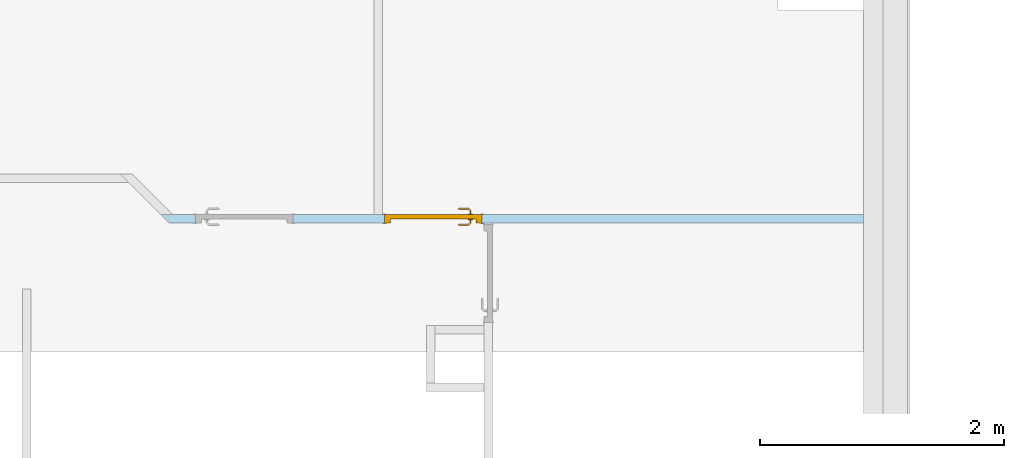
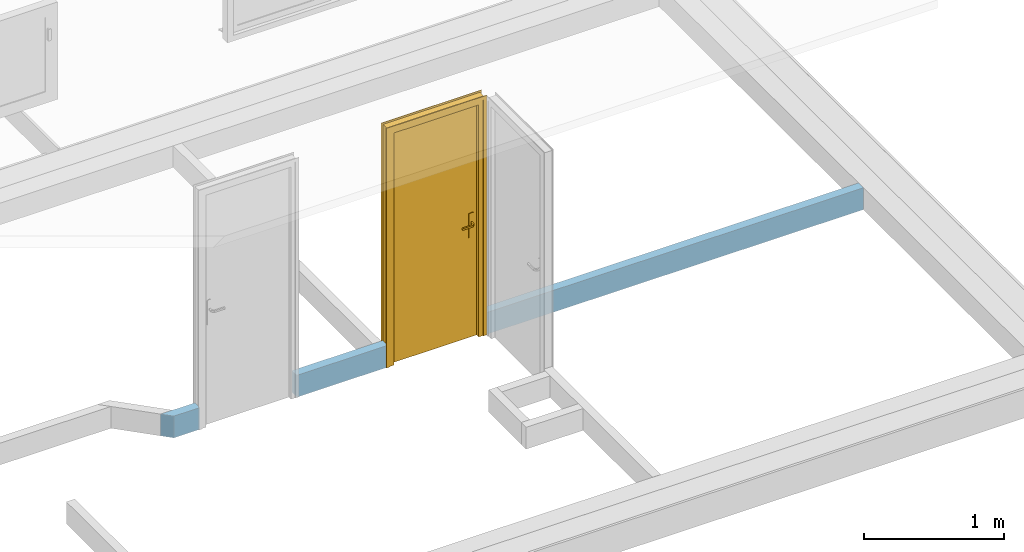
# One storey, part 3 of 5: 1 door, 2 openings, plus 1 element that does not belong to this part.
"""IFC2X3 building model written with IfcOpenShell, lengths in centimetres."""

from ifc_helpers import new_model, entity, si_unit, converted_unit, derived_unit, direction, frame, frame_2d, origin, place, context, subcontext, project, spatial, polyline, rectangle, outline, extrude, clip, halfspace, faceted_brep, source, transform, mapped, material, material_list, layer, layer_set, layer_usage, type_object, type_shapes, element, fill, save


model = new_model("IFC2X3")

# Units and contexts
model_context = context("Model", 3, precision=0.001, world=origin(), true_north=direction((6.12303176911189e-17, 1.0)))
body_context = subcontext(model_context, "Body", "Model", "MODEL_VIEW")
ifc_project = project(units=[si_unit("LENGTHUNIT", "METRE", prefix="CENTI"), si_unit("AREAUNIT", "SQUARE_METRE"), si_unit("VOLUMEUNIT", "CUBIC_METRE"), converted_unit("PLANEANGLEUNIT", "DEGREE", entity("IfcRatioMeasure", 0.0174532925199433), si_unit("PLANEANGLEUNIT", "RADIAN"), dimensions=[0, 0, 0, 0, 0, 0, 0]), si_unit("MASSUNIT", "GRAM", prefix="KILO"), derived_unit("MASSDENSITYUNIT", [(si_unit("MASSUNIT", "GRAM", prefix="KILO"), 1), (si_unit("LENGTHUNIT", "METRE"), -3)]), derived_unit("MOMENTOFINERTIAUNIT", [(si_unit("LENGTHUNIT", "METRE"), 4)]), si_unit("TIMEUNIT", "SECOND"), si_unit("FREQUENCYUNIT", "HERTZ"), si_unit("THERMODYNAMICTEMPERATUREUNIT", "DEGREE_CELSIUS"), derived_unit("THERMALTRANSMITTANCEUNIT", [(si_unit("MASSUNIT", "GRAM", prefix="KILO"), 1), (si_unit("THERMODYNAMICTEMPERATUREUNIT", "KELVIN"), -1), (si_unit("TIMEUNIT", "SECOND"), -3)]), derived_unit("VOLUMETRICFLOWRATEUNIT", [(si_unit("LENGTHUNIT", "METRE"), 3), (si_unit("TIMEUNIT", "SECOND"), -1)]), si_unit("ELECTRICCURRENTUNIT", "AMPERE"), si_unit("ELECTRICVOLTAGEUNIT", "VOLT"), si_unit("POWERUNIT", "WATT"), si_unit("FORCEUNIT", "NEWTON", prefix="KILO"), si_unit("ILLUMINANCEUNIT", "LUX"), si_unit("LUMINOUSFLUXUNIT", "LUMEN"), si_unit("LUMINOUSINTENSITYUNIT", "CANDELA"), derived_unit("USERDEFINED", [(si_unit("MASSUNIT", "GRAM", prefix="KILO"), -1), (si_unit("LENGTHUNIT", "METRE"), -2), (si_unit("TIMEUNIT", "SECOND"), 3), (si_unit("LUMINOUSFLUXUNIT", "LUMEN"), 1)]), derived_unit("LINEARVELOCITYUNIT", [(si_unit("LENGTHUNIT", "METRE"), 1), (si_unit("TIMEUNIT", "SECOND"), -1)]), si_unit("PRESSUREUNIT", "PASCAL"), derived_unit("USERDEFINED", [(si_unit("LENGTHUNIT", "METRE"), -2), (si_unit("MASSUNIT", "GRAM", prefix="KILO"), 1), (si_unit("TIMEUNIT", "SECOND"), -2)]), derived_unit("LINEARFORCEUNIT", [(si_unit("MASSUNIT", "GRAM", prefix="KILO"), 1), (si_unit("LENGTHUNIT", "METRE"), 1), (si_unit("TIMEUNIT", "SECOND"), -2), (si_unit("LENGTHUNIT", "METRE"), -1)]), derived_unit("PLANARFORCEUNIT", [(si_unit("MASSUNIT", "GRAM", prefix="KILO"), 1), (si_unit("LENGTHUNIT", "METRE"), 1), (si_unit("TIMEUNIT", "SECOND"), -2), (si_unit("LENGTHUNIT", "METRE"), -2)])], contexts=[model_context])

# Site, building, storey
site_placement = place(None, origin())
site = spatial("IfcSite", under=ifc_project, at=site_placement, Name="Surface", CompositionType="ELEMENT")
building_placement = place(site_placement, origin())
building = spatial("IfcBuilding", under=site, at=building_placement, CompositionType="ELEMENT")
storey_placement = place(building_placement, frame((0.0, 0.0, 263.0)))
storey = spatial("IfcBuildingStorey", under=building, at=storey_placement, Name="2.63_Etage", CompositionType="ELEMENT", Elevation=263.0)

# Wall, openings, door
ifc_material_1 = material(Name="Mur par défaut")
ifc_layer = layer(ifc_material_1, 7.0)
ifc_layer_set = layer_set([ifc_layer], Name="Mur de base:Cloison 7cm")
ifc_layer_usage = layer_usage(ifc_layer_set, "AXIS2", "POSITIVE", -3.5)
wall_type = type_object("IfcWallType", Name="Mur de base:Cloison 7cm", PredefinedType="STANDARD", material=ifc_layer_set)
wall_placement = place(storey_placement, frame((-918.177260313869, 397.49231712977, 0.0), z_axis=(0.0, 0.0, 1.0), x_axis=(-1.0, 0.0, 0.0)))
wall = element("IfcWallStandardCase", 1, at=wall_placement, inside=storey, type_object=wall_type, material=ifc_layer_usage, Name="Mur de base:Cloison 7cm", ObjectType="Mur de base:Cloison 7cm", context=body_context, shape_type="Clipping", body=[
    clip(extrude(outline(polyline([(0.0, -3.49999999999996), (394.0, -3.49999999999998), (401.0, -3.49999999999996), (566.100505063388, -3.49999999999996), (576.0, -3.49999999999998), (569.0, 3.50000000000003), (0.0, 3.50000000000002), (0.0, -3.49999999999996)])), origin(), (0.0, 0.0, 1.0), 19.0), halfspace(origin(), True)),
])
opening_1_placement = place(wall_placement, frame((547.5, 3.49999999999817, 0.0)))
element("IfcOpeningElement", 2, at=opening_1_placement, cuts=wall, Name="Int. Simple:PP (0.73m x 2.04m):1", ObjectType="Opening", context=body_context, shape_type="SweptSolid", body=[
    extrude(rectangle(XDim=207.5, YDim=79.9999999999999, at=frame_2d((103.75, 40.0), x_axis=(1.0, 0.0))), frame((0.0, 0.0, 0.0), z_axis=(0.0, -1.0, 0.0), x_axis=(0.0, 0.0, 1.0)), (0.0, 0.0, 1.0), 7.0),
])
opening_2_placement = place(wall_placement, frame((392.500000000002, 3.49999999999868, 0.0)))
opening_2 = element("IfcOpeningElement", 3, at=opening_2_placement, cuts=wall, Name="Int. Simple:PP (0.73m x 2.04m):1", ObjectType="Opening", context=body_context, shape_type="SweptSolid", body=[
    extrude(rectangle(XDim=207.5, YDim=79.9999999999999, at=frame_2d((103.75, 40.0), x_axis=(1.0, 0.0))), frame((0.0, 0.0, 0.0), z_axis=(0.0, -1.0, 0.0), x_axis=(0.0, 0.0, 1.0)), (0.0, 0.0, 1.0), 7.0),
])
ifc_material_2 = material(Name="Finition Peinture - Blanc satiné")
ifc_material_3 = material(Name="Bois - Panneau de porte")
ifc_material_4 = material(Name="Bois - Cadre de porte")
ifc_material_list_1 = material_list([ifc_material_2, ifc_material_3, ifc_material_4])
ifc_material_list_2 = material_list([ifc_material_4, ifc_material_2, ifc_material_3])
door_style = type_object("IfcDoorStyle", Name="Int. Simple:PP (0.73m x 2.04m)", ConstructionType="NOTDEFINED", OperationType="NOTDEFINED", ParameterTakesPrecedence=False, Sizeable=False, material=ifc_material_list_2)
shared_shape = source(origin(), body_context, "Body", "Brep", [
    faceted_brep([(10.5352761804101, -0.500000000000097, 86.6003983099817), (11.5, -0.500000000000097, 87.0), (11.4999999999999, -0.500000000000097, 108.0), (10.53527618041, -0.500000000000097, 108.399601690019), (9.49999999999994, -0.500000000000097, 108.535898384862), (8.46472381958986, -0.500000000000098, 108.399601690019), (7.49999999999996, -0.500000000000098, 108.0), (7.50000000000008, -0.500000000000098, 87.0), (8.46472381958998, -0.500000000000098, 86.6003983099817), (9.50000000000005, -0.500000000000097, 86.464101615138), (10.53527618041, 0.0, 108.399601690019), (11.4999999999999, 0.0, 108.0), (11.5, 0.0, 87.0), (10.5352761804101, 0.0, 86.6003983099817), (9.50000000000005, 0.0, 86.464101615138), (8.46472381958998, 0.0, 86.6003983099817), (7.49999999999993, 0.0, 87.0), (7.49999999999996, 0.0, 108.0), (8.46472381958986, 0.0, 108.399601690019), (9.49999999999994, 0.0, 108.535898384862)], [[[0, 1, 2, 3, 4, 5, 6, 7, 8, 9]], [[10, 11, 12, 13, 14, 15, 16, 17, 18, 19]], [[16, 15, 8, 7]], [[8, 15, 14, 9]], [[14, 13, 0, 9]], [[13, 12, 1, 0]], [[2, 1, 12, 11]], [[11, 10, 3, 2]], [[3, 10, 19, 4]], [[19, 18, 5, 4]], [[18, 17, 6, 5]], [[7, 6, 17, 16]]]),
    faceted_brep([(10.5352761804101, 4.0, 86.6003983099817), (11.5, 4.0, 87.0), (11.4999999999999, 4.0, 108.0), (10.53527618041, 4.0, 108.399601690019), (9.4999999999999, 4.0, 108.535898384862), (8.46472381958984, 4.0, 108.399601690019), (7.49999999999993, 4.0, 108.0), (7.50000000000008, 4.0, 87.0), (8.46472381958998, 4.0, 86.6003983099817), (9.50000000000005, 4.0, 86.464101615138), (10.53527618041, 4.4999999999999, 108.399601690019), (11.4999999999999, 4.4999999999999, 108.0), (11.5, 4.4999999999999, 87.0), (10.5352761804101, 4.4999999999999, 86.6003983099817), (9.50000000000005, 4.4999999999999, 86.464101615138), (8.46472381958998, 4.4999999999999, 86.6003983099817), (7.49999999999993, 4.4999999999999, 87.0), (7.49999999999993, 4.4999999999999, 108.0), (8.46472381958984, 4.4999999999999, 108.399601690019), (9.4999999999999, 4.4999999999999, 108.535898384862)], [[[0, 1, 2, 3, 4, 5, 6, 7, 8, 9]], [[10, 11, 12, 13, 14, 15, 16, 17, 18, 19]], [[11, 10, 3, 2]], [[3, 10, 19, 4]], [[19, 18, 5, 4]], [[18, 17, 6, 5]], [[7, 6, 17, 16]], [[16, 15, 8, 7]], [[8, 15, 14, 9]], [[14, 13, 0, 9]], [[13, 12, 1, 0]], [[2, 1, 12, 11]]]),
    faceted_brep([(9.29747013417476, -0.500000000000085, 100.778044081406), (9.70252986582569, -0.500000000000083, 100.778044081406), (10.1000000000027, -0.500000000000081, 100.699999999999), (10.1000000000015, -0.500000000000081, 99.3000000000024), (9.70252986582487, -0.500000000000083, 99.2219559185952), (9.29747013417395, -0.500000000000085, 99.221955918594), (8.89999999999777, -0.500000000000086, 99.2999999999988), (8.89999999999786, -0.500000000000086, 100.7), (8.89999999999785, -3.26509507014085, 100.7), (9.29747013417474, -3.10045754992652, 100.778044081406), (10.9023585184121, -4.7053459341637, 100.778044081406), (11.0701397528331, -4.30028620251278, 100.778044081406), (9.70252986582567, -2.93267631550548, 100.778044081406), (10.1000000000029, -2.76803879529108, 100.7), (10.1000000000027, -2.76803879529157, 99.3000000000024), (9.70252986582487, -2.93267631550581, 99.2219559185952), (11.0701397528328, -4.30028620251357, 99.2219559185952), (10.9023585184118, -4.70534593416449, 99.221955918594), (9.29747013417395, -3.10045754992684, 99.221955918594), (8.89999999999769, -3.26509507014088, 99.2999999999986), (10.7377209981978, -5.1028160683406, 100.7), (11.2347772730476, -3.9028160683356, 100.7), (11.2347772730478, -3.90281606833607, 99.3000000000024), (10.7377209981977, -5.10281606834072, 99.2999999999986), (19.5018640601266, -5.1028160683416, 99.2999999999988), (19.5018640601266, -4.70534593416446, 99.221955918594), (19.5018640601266, -4.30028620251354, 99.2219559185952), (19.5018640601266, -3.90281606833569, 99.3000000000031), (19.5018640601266, -3.90281606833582, 100.7), (19.5018640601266, -4.30028620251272, 100.778044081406), (19.5018640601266, -4.70534593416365, 100.778044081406), (19.5018640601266, -5.10281606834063, 100.699999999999), (14.7307697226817, -5.10281606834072, 100.7), (15.2860019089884, -4.50281606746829, 100.78786867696), (15.368320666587, -3.90281606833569, 100.7), (15.3683206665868, -3.90281606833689, 99.3000000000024), (15.2860018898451, -4.50281607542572, 99.2121313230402), (14.7307700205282, -5.10281606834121, 99.2999999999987)], [[[0, 1, 2, 3, 4, 5, 6, 7]], [[8, 9, 0, 7]], [[9, 10, 11, 12, 1, 0]], [[12, 13, 2, 1]], [[3, 2, 13, 14]], [[14, 15, 4, 3]], [[15, 16, 17, 18, 5, 4]], [[18, 19, 6, 5]], [[7, 6, 19, 8]], [[20, 10, 9, 8]], [[11, 21, 13, 12]], [[14, 13, 21, 22]], [[22, 16, 15, 14]], [[17, 23, 19, 18]], [[8, 19, 23, 20]], [[24, 25, 26, 27, 28, 29, 30, 31]], [[32, 30, 33]], [[31, 30, 32]], [[10, 20, 32]], [[33, 34, 11]], [[21, 11, 34]], [[34, 29, 28]], [[30, 29, 33]], [[29, 34, 33]], [[10, 32, 33]], [[10, 33, 11]], [[22, 21, 34, 28, 27, 35]], [[35, 26, 36]], [[37, 36, 25]], [[22, 35, 16]], [[35, 27, 26]], [[24, 37, 25]], [[23, 17, 37]], [[37, 17, 36]], [[17, 16, 36]], [[16, 35, 36]], [[25, 36, 26]], [[20, 23, 37, 24, 31, 32]]]),
    faceted_brep([(9.29747013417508, 4.49999999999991, 100.778044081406), (8.89999999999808, 4.49999999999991, 100.7), (8.89999999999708, 4.49999999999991, 99.2999999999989), (9.29747013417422, 4.49999999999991, 99.221955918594), (9.70252986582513, 4.49999999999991, 99.2219559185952), (10.100000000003, 4.49999999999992, 99.3000000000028), (10.1000000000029, 4.49999999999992, 100.7), (9.70252986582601, 4.49999999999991, 100.778044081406), (10.100000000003, 6.74852045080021, 99.3000000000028), (10.100000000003, 6.74852045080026, 100.7), (9.70252986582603, 6.91315797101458, 100.778044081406), (11.0838906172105, 8.29451872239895, 100.778044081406), (10.9161093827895, 8.69957845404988, 100.778044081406), (9.2974701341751, 7.0809392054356, 100.778044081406), (8.89999999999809, 7.24557672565, 100.7), (8.89999999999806, 7.24557672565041, 99.2999999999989), (9.29747013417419, 7.08093920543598, 99.221955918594), (10.9161093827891, 8.69957845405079, 99.221955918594), (11.0838906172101, 8.29451872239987, 99.2219559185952), (9.70252986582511, 6.91315797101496, 99.2219559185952), (11.2485281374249, 7.89704858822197, 99.3000000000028), (11.2485281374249, 7.897048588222, 100.7), (10.7514718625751, 9.0970485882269, 100.7), (10.7514718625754, 9.09704858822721, 99.2999999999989), (19.5045783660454, 7.89704858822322, 99.3000000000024), (19.5045783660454, 8.29451872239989, 99.2219559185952), (19.5045783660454, 8.69957845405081, 99.221955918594), (19.5045783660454, 9.09704858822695, 99.2999999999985), (19.5045783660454, 9.09704858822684, 100.7), (19.5045783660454, 8.69957845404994, 100.778044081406), (19.5045783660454, 8.29451872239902, 100.778044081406), (19.5045783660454, 7.897048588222, 100.7), (15.3765520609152, 7.89704858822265, 99.3000000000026), (15.3765532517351, 7.89704858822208, 100.7), (15.2942344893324, 8.49704858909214, 100.78786867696), (14.7445205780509, 9.09704858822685, 100.7), (14.7445204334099, 9.09704858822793, 99.2999999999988), (15.2942345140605, 8.49704858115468, 99.2121313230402)], [[[0, 1, 2, 3, 4, 5, 6, 7]], [[6, 5, 8, 9]], [[9, 10, 7, 6]], [[10, 11, 12, 13, 0, 7]], [[13, 14, 1, 0]], [[2, 1, 14, 15]], [[15, 16, 3, 2]], [[16, 17, 18, 19, 4, 3]], [[19, 8, 5, 4]], [[9, 8, 20, 21]], [[21, 11, 10, 9]], [[12, 22, 14, 13]], [[15, 14, 22, 23]], [[23, 17, 16, 15]], [[18, 20, 8, 19]], [[24, 25, 26, 27, 28, 29, 30, 31]], [[21, 20, 32, 24, 31, 33]], [[33, 30, 34]], [[35, 34, 29]], [[21, 33, 11]], [[33, 31, 30]], [[28, 35, 29]], [[22, 12, 35]], [[35, 12, 34]], [[12, 11, 34]], [[11, 33, 34]], [[29, 34, 30]], [[22, 35, 28, 27, 36, 23]], [[36, 26, 37]], [[27, 26, 36]], [[17, 23, 36]], [[37, 32, 18]], [[20, 18, 32]], [[32, 25, 24]], [[26, 25, 37]], [[25, 32, 37]], [[17, 36, 37]], [[17, 37, 18]]]),
    faceted_brep([(3.49999999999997, 4.0, 204.0), (76.5, 4.0, 204.0), (76.5, 4.0, 0.0), (3.49999999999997, 4.0, 0.0), (3.49999999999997, 0.0, 204.0), (3.49999999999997, 0.0, 0.0), (76.5, 0.0, 0.0), (76.5, 0.0, 204.0)], [[[0, 1, 2, 3]], [[4, 5, 6, 7]], [[1, 0, 4, 7]], [[2, 1, 7, 6]], [[3, 2, 6, 5]], [[0, 3, 5, 4]]]),
    faceted_brep([(0.0, 0.0, 0.0), (0.0, 7.0, 0.0), (5.0, 7.0, 0.0), (5.0, 4.0, 0.0), (3.49999999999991, 4.0, 0.0), (3.49999999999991, 0.0, 0.0), (0.0, 0.0, 207.500000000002), (0.0, 7.0, 207.500000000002), (80.0, 7.0, 207.500000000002), (80.0, 7.0, 0.0), (75.0, 7.0, 0.0), (75.0, 7.0, 202.5), (5.0, 7.0, 202.5), (5.0, 4.0, 202.5), (75.0, 4.0, 202.5), (75.0, 4.0, 0.0), (76.5000000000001, 4.0, 0.0), (76.5000000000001, 4.0, 204.0), (3.49999999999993, 4.0, 204.0), (3.49999999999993, 0.0, 204.0), (76.5000000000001, 0.0, 204.0), (76.5000000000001, 0.0, 0.0), (80.0, 0.0, 0.0), (80.0, 0.0, 207.500000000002)], [[[0, 1, 2, 3, 4, 5]], [[1, 0, 6, 7]], [[2, 1, 7, 8, 9, 10, 11, 12]], [[3, 2, 12, 13]], [[4, 3, 13, 14, 15, 16, 17, 18]], [[5, 4, 18, 19]], [[0, 5, 19, 20, 21, 22, 23, 6]], [[8, 23, 22, 9]], [[22, 21, 16, 15, 10, 9]], [[14, 11, 10, 15]], [[20, 17, 16, 21]], [[7, 6, 23, 8]], [[13, 12, 11, 14]], [[19, 18, 17, 20]]]),
    faceted_brep([(1.49999999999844, 7.0, 0.0), (-1.50000000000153, 7.0, 0.0), (-1.50000000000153, 7.49999999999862, 0.0), (1.49999999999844, 7.49999999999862, 0.0), (1.49999999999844, 7.0, 206.0), (78.4999999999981, 7.0, 206.0), (78.4999999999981, 7.0, 0.0), (81.499999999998, 7.0, 0.0), (81.499999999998, 7.0, 209.0), (-1.50000000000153, 7.0, 209.0), (-1.50000000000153, 7.49999999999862, 209.0), (81.499999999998, 7.49999999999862, 209.0), (81.499999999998, 7.49999999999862, 0.0), (78.4999999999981, 7.49999999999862, 0.0), (78.4999999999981, 7.49999999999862, 206.0), (1.49999999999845, 7.49999999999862, 206.0)], [[[0, 1, 2, 3]], [[1, 0, 4, 5, 6, 7, 8, 9]], [[2, 1, 9, 10]], [[3, 2, 10, 11, 12, 13, 14, 15]], [[0, 3, 15, 4]], [[6, 13, 12, 7]], [[5, 14, 13, 6]], [[11, 8, 7, 12]], [[10, 9, 8, 11]], [[4, 15, 14, 5]]]),
    faceted_brep([(-1.50000000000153, -0.499999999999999, 0.0), (1.49999999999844, -0.499999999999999, 0.0), (1.49999999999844, -0.499999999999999, 206.0), (78.4999999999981, -0.499999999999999, 206.0), (78.4999999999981, -0.499999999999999, 0.0), (81.499999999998, -0.499999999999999, 0.0), (81.499999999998, -0.499999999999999, 209.0), (-1.50000000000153, -0.499999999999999, 209.0), (-1.50000000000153, 0.0, 0.0), (-1.50000000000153, 0.0, 209.0), (1.49999999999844, 0.0, 0.0), (81.499999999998, 0.0, 209.0), (81.499999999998, 0.0, 0.0), (78.4999999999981, 0.0, 0.0), (78.4999999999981, 0.0, 206.0), (1.49999999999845, 0.0, 206.0)], [[[0, 1, 2, 3, 4, 5, 6, 7]], [[8, 0, 7, 9]], [[10, 8, 9, 11, 12, 13, 14, 15]], [[1, 10, 15, 2]], [[3, 14, 13, 4]], [[11, 6, 5, 12]], [[9, 7, 6, 11]], [[2, 15, 14, 3]], [[4, 13, 12, 5]], [[1, 0, 8, 10]]]),
])
type_shapes(door_style, [shared_shape])
door_placement = place(opening_2_placement, frame((-80.0, -7.0, 0.0)))
door = element("IfcDoor", 4, at=door_placement, inside=storey, type_object=door_style, material=ifc_material_list_1, Name="Int. Simple:PP (0.73m x 2.04m)", ObjectType="Int. Simple:PP (0.73m x 2.04m)", OverallHeight=207.5, OverallWidth=80.0, context=body_context, shape_type="MappedRepresentation", body=[
    mapped(shared_shape, transform((0.0, 0.0, 0.0), scale=1.0)),
])
fill(opening_2, door)

save(model, "model.ifc")
